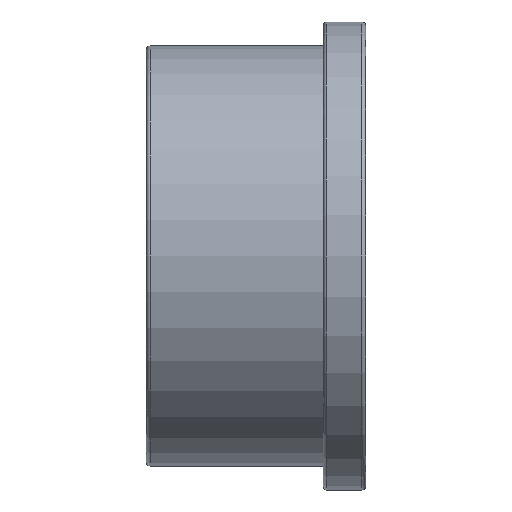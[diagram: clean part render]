
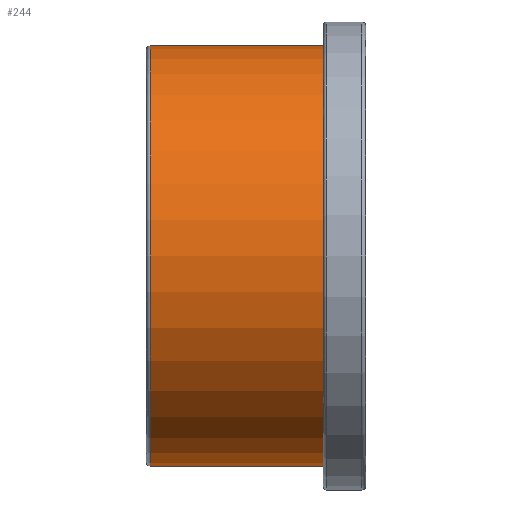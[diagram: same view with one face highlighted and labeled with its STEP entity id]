
A CAD part, front view. The second image highlights one B-rep face of the part: STEP entity #244.
In plain terms, the highlighted cylindrical face has radius 114 mm (diameter 228 mm), a full revolution.
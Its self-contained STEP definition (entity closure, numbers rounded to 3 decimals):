
#20=CYLINDRICAL_SURFACE('',#288,114.);
#46=FACE_BOUND('',#108,.T.);
#67=FACE_OUTER_BOUND('',#107,.T.);
#107=EDGE_LOOP('',(#212));
#108=EDGE_LOOP('',(#213));
#130=CIRCLE('',#285,114.);
#131=CIRCLE('',#287,114.);
#151=VERTEX_POINT('',#433);
#152=VERTEX_POINT('',#436);
#172=EDGE_CURVE('',#151,#151,#130,.T.);
#173=EDGE_CURVE('',#152,#152,#131,.T.);
#212=ORIENTED_EDGE('',*,*,#172,.T.);
#213=ORIENTED_EDGE('',*,*,#173,.F.);
#244=ADVANCED_FACE('',(#67,#46),#20,.T.);
#285=AXIS2_PLACEMENT_3D('',#434,#366,#367);
#287=AXIS2_PLACEMENT_3D('',#437,#370,#371);
#288=AXIS2_PLACEMENT_3D('',#438,#372,#373);
#366=DIRECTION('center_axis',(-1.,0.,0.));
#367=DIRECTION('ref_axis',(0.,0.,1.));
#370=DIRECTION('center_axis',(-1.,0.,0.));
#371=DIRECTION('ref_axis',(0.,1.,0.));
#372=DIRECTION('center_axis',(-1.,0.,0.));
#373=DIRECTION('ref_axis',(0.,-1.,0.));
#433=CARTESIAN_POINT('',(96.,-114.,0.));
#434=CARTESIAN_POINT('Origin',(96.,0.,0.));
#436=CARTESIAN_POINT('',(2.,-114.,0.));
#437=CARTESIAN_POINT('Origin',(2.,0.,0.));
#438=CARTESIAN_POINT('Origin',(48.,0.,0.));
